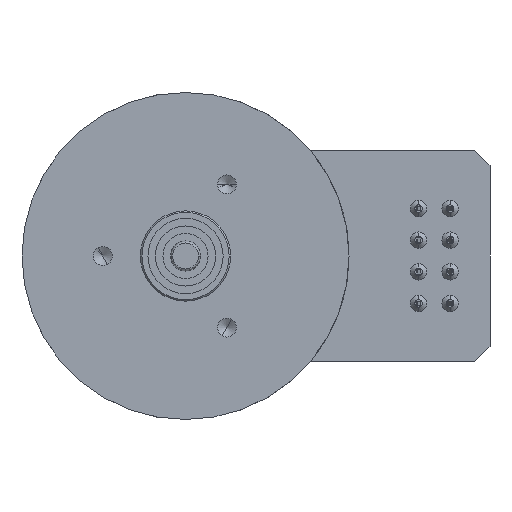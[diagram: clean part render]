
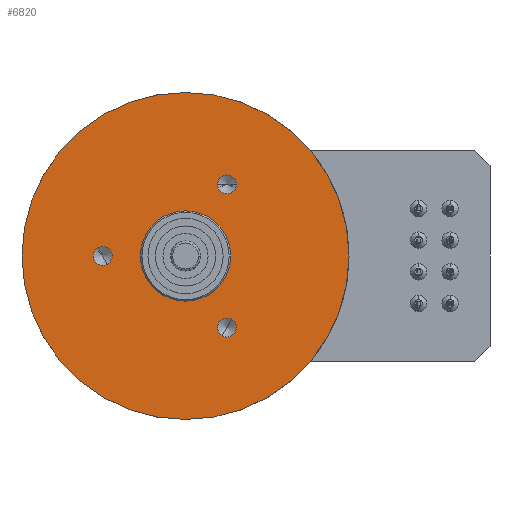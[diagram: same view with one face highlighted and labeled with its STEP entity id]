
A CAD part, left-side view. The second image highlights one B-rep face of the part: STEP entity #6820.
In plain terms, the highlighted planar face has unit normal (-1, 0, 0).
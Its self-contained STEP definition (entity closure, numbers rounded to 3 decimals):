
#69=CARTESIAN_POINT('',(0.,0.,0.));
#70=DIRECTION('',(1.,0.,0.));
#71=DIRECTION('',(0.,1.,0.));
#72=AXIS2_PLACEMENT_3D('',#69,#70,#71);
#92=CARTESIAN_POINT('',(0.,0.,0.));
#93=DIRECTION('',(-1.,0.,0.));
#94=DIRECTION('',(0.,1.,0.));
#95=AXIS2_PLACEMENT_3D('',#92,#93,#94);
#366=CARTESIAN_POINT('',(0.,0.,0.));
#367=DIRECTION('',(1.,0.,0.));
#368=DIRECTION('',(0.,1.,0.));
#369=AXIS2_PLACEMENT_3D('',#366,#367,#368);
#374=CARTESIAN_POINT('',(0.,0.,0.));
#375=DIRECTION('',(-1.,0.,0.));
#376=DIRECTION('',(0.,1.,0.));
#377=AXIS2_PLACEMENT_3D('',#374,#375,#376);
#382=CARTESIAN_POINT('',(0.,-5.5,9.526));
#383=DIRECTION('',(-1.,0.,0.));
#384=DIRECTION('',(0.,1.,0.));
#385=AXIS2_PLACEMENT_3D('',#382,#383,#384);
#390=CARTESIAN_POINT('',(0.,-5.5,9.526));
#391=DIRECTION('',(-1.,0.,0.));
#392=DIRECTION('',(0.,-1.,0.));
#393=AXIS2_PLACEMENT_3D('',#390,#391,#392);
#398=CARTESIAN_POINT('',(0.,-5.5,-9.526));
#399=DIRECTION('',(-1.,0.,0.));
#400=DIRECTION('',(0.,-0.5,0.866));
#401=AXIS2_PLACEMENT_3D('',#398,#399,#400);
#406=CARTESIAN_POINT('',(0.,-5.5,-9.526));
#407=DIRECTION('',(-1.,0.,0.));
#408=DIRECTION('',(0.,0.5,-0.866));
#409=AXIS2_PLACEMENT_3D('',#406,#407,#408);
#414=CARTESIAN_POINT('',(0.,11.,0.));
#415=DIRECTION('',(-1.,0.,0.));
#416=DIRECTION('',(0.,-0.5,-0.866));
#417=AXIS2_PLACEMENT_3D('',#414,#415,#416);
#422=CARTESIAN_POINT('',(0.,11.,0.));
#423=DIRECTION('',(-1.,0.,0.));
#424=DIRECTION('',(0.,0.5,0.866));
#425=AXIS2_PLACEMENT_3D('',#422,#423,#424);
#5526=CARTESIAN_POINT('',(0.,21.75,0.));
#5528=VERTEX_POINT('',#5526);
#5541=CARTESIAN_POINT('',(0.,6.,0.));
#5543=VERTEX_POINT('',#5541);
#5545=CARTESIAN_POINT('',(0.,-6.,0.));
#5547=VERTEX_POINT('',#5545);
#6172=CARTESIAN_POINT('',(0.,-21.75,0.));
#6174=VERTEX_POINT('',#6172);
#6465=CARTESIAN_POINT('',(0.,-4.25,9.526));
#6466=CARTESIAN_POINT('',(0.,-6.75,9.526));
#6467=VERTEX_POINT('',#6465);
#6468=VERTEX_POINT('',#6466);
#6475=CARTESIAN_POINT('',(0.,-6.125,-8.444));
#6476=CARTESIAN_POINT('',(0.,-4.875,-10.609));
#6477=VERTEX_POINT('',#6475);
#6478=VERTEX_POINT('',#6476);
#6485=CARTESIAN_POINT('',(0.,10.375,-1.083));
#6486=CARTESIAN_POINT('',(0.,11.625,1.083));
#6487=VERTEX_POINT('',#6485);
#6488=VERTEX_POINT('',#6486);
#6787=CARTESIAN_POINT('',(0.,0.,0.));
#6788=DIRECTION('',(1.,0.,0.));
#6789=DIRECTION('',(0.,-1.,0.));
#6790=AXIS2_PLACEMENT_3D('',#6787,#6788,#6789);
#6791=PLANE('',#6790);
#6793=ORIENTED_EDGE('',*,*,#6792,.T.);
#6795=ORIENTED_EDGE('',*,*,#6794,.F.);
#6796=EDGE_LOOP('',(#6793,#6795));
#6797=FACE_OUTER_BOUND('',#6796,.F.);
#6798=ORIENTED_EDGE('',*,*,#6526,.T.);
#6799=ORIENTED_EDGE('',*,*,#6508,.F.);
#6800=EDGE_LOOP('',(#6798,#6799));
#6801=FACE_BOUND('',#6800,.F.);
#6803=ORIENTED_EDGE('',*,*,#6802,.T.);
#6805=ORIENTED_EDGE('',*,*,#6804,.T.);
#6806=EDGE_LOOP('',(#6803,#6805));
#6807=FACE_BOUND('',#6806,.F.);
#6809=ORIENTED_EDGE('',*,*,#6808,.T.);
#6811=ORIENTED_EDGE('',*,*,#6810,.T.);
#6812=EDGE_LOOP('',(#6809,#6811));
#6813=FACE_BOUND('',#6812,.F.);
#6815=ORIENTED_EDGE('',*,*,#6814,.T.);
#6817=ORIENTED_EDGE('',*,*,#6816,.T.);
#6818=EDGE_LOOP('',(#6815,#6817));
#6819=FACE_BOUND('',#6818,.F.);
#6820=ADVANCED_FACE('',(#6797,#6801,#6807,#6813,#6819),#6791,.F.);
#73=CIRCLE('',#72,6.);
#96=CIRCLE('',#95,6.);
#370=CIRCLE('',#369,21.75);
#378=CIRCLE('',#377,21.75);
#386=CIRCLE('',#385,1.25);
#394=CIRCLE('',#393,1.25);
#402=CIRCLE('',#401,1.25);
#410=CIRCLE('',#409,1.25);
#418=CIRCLE('',#417,1.25);
#426=CIRCLE('',#425,1.25);
#6508=EDGE_CURVE('',#5543,#5547,#73,.T.);
#6526=EDGE_CURVE('',#5543,#5547,#96,.T.);
#6792=EDGE_CURVE('',#5528,#6174,#370,.T.);
#6794=EDGE_CURVE('',#5528,#6174,#378,.T.);
#6802=EDGE_CURVE('',#6467,#6468,#386,.T.);
#6804=EDGE_CURVE('',#6468,#6467,#394,.T.);
#6808=EDGE_CURVE('',#6477,#6478,#402,.T.);
#6810=EDGE_CURVE('',#6478,#6477,#410,.T.);
#6814=EDGE_CURVE('',#6487,#6488,#418,.T.);
#6816=EDGE_CURVE('',#6488,#6487,#426,.T.);
